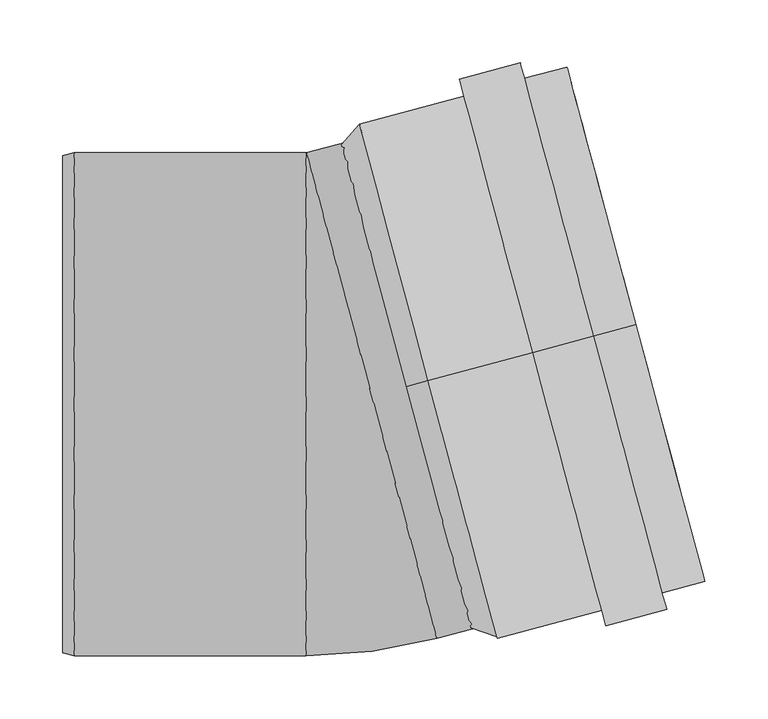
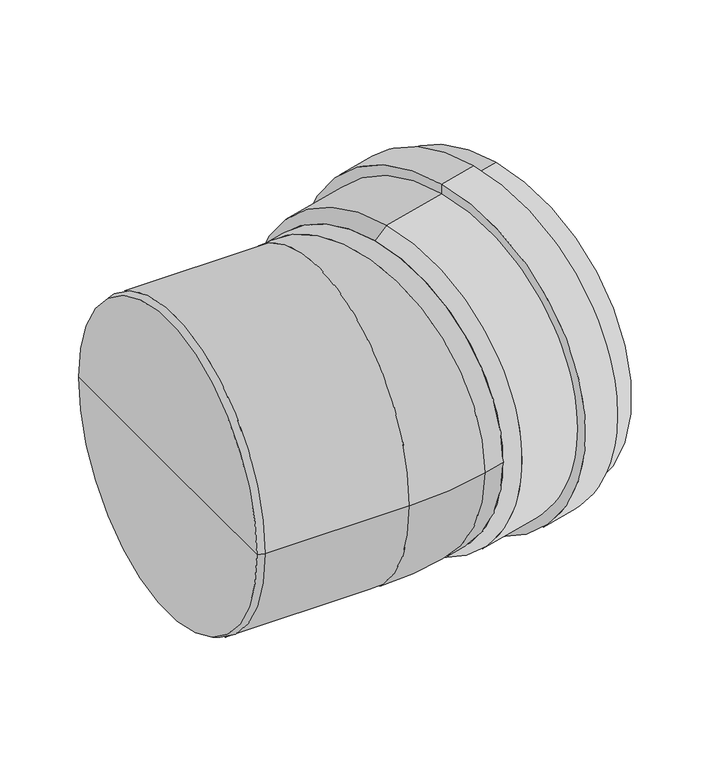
"""IFC4 building model written with IfcOpenShell, lengths in millimetres: pipe fitting geometry, OSMA_KG2000_PPKGB : Koleno 15°."""

from ifc_helpers import new_model, si_unit, point, frame, origin, place, context, project, spatial, polyline, circle_curve, ellipse_curve, trimmed, source, transform, mapped, element, save
from ifc_brep_helpers import plane_surface, cylinder_surface, revolved_surface, advanced_brep


def pipe_fitting_46361acc(model_context):
    return source(origin(), model_context, "Body", "AdvancedBrep", [
        advanced_brep(
        [(70.5125853, 18.8937903, 200.0), (70.5125853, 18.8937903, -200.0), (235.6859016, 63.151847, -200.0), (235.6859016, 63.151847, 200.0), (153.5822064, 41.1522282, 212.3), (153.5822064, 41.1522282, -212.3), (70.5125853, 18.8937903, -212.3), (70.5125853, 18.8937903, 212.3), (153.5822064, 41.1522282, 225.0), (153.5822064, 41.1522282, -225.0), (201.8784977, 54.0931804, 225.0), (201.8784977, 54.0931804, -225.0), (201.8784977, 54.0931804, 212.3), (201.8784977, 54.0931804, -212.3), (235.6859016, 63.151847, 212.3), (235.6859016, 63.151847, -212.3), (53.1259204, 14.2350475, 187.7), (53.1259204, 14.2350475, -187.7), (53.1259204, 14.2350475, 200.0), (53.1259204, 14.2350475, -200.0)],
        [
            (0, 1, circle_curve(frame((70.5125853, 18.8937903, 0.0), z_axis=(-0.9659258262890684, -0.2588190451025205, 0.0), x_axis=(0.0, 0.0, -1.0000000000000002)), 200.0)),
            (1, 2),
            (2, 3, circle_curve(frame((235.6859016, 63.151847, 0.0), z_axis=(0.9659258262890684, 0.2588190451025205, 0.0), x_axis=(0.0, 0.0, -1.0000000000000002)), 200.0)),
            (3, 0),
            (1, 0, circle_curve(frame((70.5125853, 18.8937903, 0.0), z_axis=(-0.9659258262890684, -0.2588190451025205, 0.0), x_axis=(0.0, 0.0, -1.0000000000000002)), 200.0)),
            (3, 2, circle_curve(frame((235.6859016, 63.151847, 0.0), z_axis=(0.9659258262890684, 0.2588190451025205, 0.0), x_axis=(0.0, 0.0, -1.0000000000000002)), 200.0)),
            (4, 5, circle_curve(frame((153.5822064, 41.1522282, 0.0), z_axis=(-0.9659258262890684, -0.2588190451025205, 0.0), x_axis=(0.0, 0.0, -1.0000000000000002)), 212.3)),
            (5, 6),
            (6, 7, circle_curve(frame((70.5125853, 18.8937903, 0.0), z_axis=(0.9659258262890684, 0.2588190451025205, 0.0), x_axis=(0.0, 0.0, -1.0000000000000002)), 212.3)),
            (7, 4),
            (5, 4, circle_curve(frame((153.5822064, 41.1522282, 0.0), z_axis=(-0.9659258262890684, -0.2588190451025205, 0.0), x_axis=(0.0, 0.0, -1.0000000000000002)), 212.3)),
            (7, 6, circle_curve(frame((70.5125853, 18.8937903, 0.0), z_axis=(0.9659258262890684, 0.2588190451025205, 0.0), x_axis=(0.0, 0.0, -1.0000000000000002)), 212.3)),
            (8, 9, circle_curve(frame((153.5822064, 41.1522282, 0.0), z_axis=(-0.9659258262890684, -0.2588190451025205, 0.0), x_axis=(0.0, 0.0, -1.0000000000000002)), 225.0)),
            (9, 5),
            (4, 8),
            (9, 8, circle_curve(frame((153.5822064, 41.1522282, 0.0), z_axis=(-0.9659258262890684, -0.2588190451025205, 0.0), x_axis=(0.0, 0.0, -1.0000000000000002)), 225.0)),
            (10, 11, circle_curve(frame((201.8784977, 54.0931804, 0.0), z_axis=(-0.9659258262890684, -0.2588190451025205, 0.0), x_axis=(0.0, 0.0, -1.0000000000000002)), 225.0)),
            (11, 9),
            (8, 10),
            (11, 10, circle_curve(frame((201.8784977, 54.0931804, 0.0), z_axis=(-0.9659258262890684, -0.2588190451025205, 0.0), x_axis=(0.0, 0.0, -1.0000000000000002)), 225.0)),
            (12, 13, circle_curve(frame((201.8784977, 54.0931804, 0.0), z_axis=(-0.9659258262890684, -0.2588190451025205, 0.0), x_axis=(0.0, 0.0, -1.0000000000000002)), 212.3)),
            (13, 11),
            (10, 12),
            (13, 12, circle_curve(frame((201.8784977, 54.0931804, 0.0), z_axis=(-0.9659258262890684, -0.2588190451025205, 0.0), x_axis=(0.0, 0.0, -1.0000000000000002)), 212.3)),
            (14, 15, circle_curve(frame((235.6859016, 63.151847, 0.0), z_axis=(-0.9659258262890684, -0.2588190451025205, 0.0), x_axis=(0.0, 0.0, -1.0000000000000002)), 212.3)),
            (15, 13),
            (12, 14),
            (15, 14, circle_curve(frame((235.6859016, 63.151847, 0.0), z_axis=(-0.9659258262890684, -0.2588190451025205, 0.0), x_axis=(0.0, 0.0, -1.0000000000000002)), 212.3)),
            (2, 15),
            (14, 3),
            (16, 17, circle_curve(frame((53.1259204, 14.2350475, 0.0), z_axis=(-0.9659258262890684, -0.2588190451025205, 0.0), x_axis=(0.0, 0.0, -1.0000000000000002)), 187.7)),
            (17, 1),
            (0, 16),
            (17, 16, circle_curve(frame((53.1259204, 14.2350475, 0.0), z_axis=(-0.9659258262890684, -0.2588190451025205, 0.0), x_axis=(0.0, 0.0, -1.0000000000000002)), 187.7)),
            (18, 19, circle_curve(frame((53.1259204, 14.2350475, 0.0), z_axis=(-0.9659258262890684, -0.2588190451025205, 0.0), x_axis=(0.0, 0.0, -1.0000000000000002)), 200.0)),
            (19, 17),
            (16, 18),
            (19, 18, circle_curve(frame((53.1259204, 14.2350475, 0.0), z_axis=(-0.9659258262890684, -0.2588190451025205, 0.0), x_axis=(0.0, 0.0, -1.0000000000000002)), 200.0)),
            (6, 19),
            (18, 7),
        ],
        [
            revolved_surface(polyline([(235.6859015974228, 63.15184700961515, -200.00000000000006), (70.51258530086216, 18.89379029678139, -200.00000000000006)]), (2814.1999931, 754.0626155, 0.0), (0.9659258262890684, 0.2588190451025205, 0.0)),
            cylinder_surface(frame((2814.1999931, 754.0626155, 0.0), z_axis=(0.9659258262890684, 0.2588190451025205, 0.0), x_axis=(0.0, 0.0, -1.0000000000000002)), 212.3),
            plane_surface(frame((153.5822064, 41.1522282, 0.0), z_axis=(-0.9659258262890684, -0.2588190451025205, 0.0), x_axis=(0.0, 0.0, -1.0))),
            cylinder_surface(frame((2814.1999931, 754.0626155, 0.0), z_axis=(0.9659258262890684, 0.2588190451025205, 0.0), x_axis=(0.0, 0.0, -1.0000000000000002)), 225.0),
            plane_surface(frame((201.8784977, 54.0931804, 0.0), z_axis=(0.9659258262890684, 0.2588190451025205, 0.0), x_axis=(0.0, 0.0, -1.0))),
            plane_surface(frame((235.6859016, 63.151847, 0.0), z_axis=(0.9659258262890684, 0.2588190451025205, 0.0), x_axis=(0.0, 0.0, -1.0))),
            revolved_surface(polyline([(70.5125853, 18.8937903, -200.0), (53.1259204, 14.2350475, -187.7)]), (2814.1999931, 754.0626155, 0.0), (0.9659258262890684, 0.2588190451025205, 0.0)),
            plane_surface(frame((53.1259204, 14.2350475, 0.0), z_axis=(-0.9659258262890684, -0.2588190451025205, 0.0), x_axis=(0.0, 0.0, -1.0))),
            revolved_surface(polyline([(53.1259204, 14.2350475, -200.0), (70.5125853, 18.8937903, -212.3)]), (2814.1999931, 754.0626155, 0.0), (0.9659258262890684, 0.2588190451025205, 0.0)),
        ],
        [
            (0, [[1, 2, 3, 4]]),
            (0, [[5, -4, 6, -2]]),
            (1, [[7, 8, 9, 10]]),
            (1, [[11, -10, 12, -8]]),
            (2, [[13, 14, -7, 15]]),
            (2, [[16, -15, -11, -14]]),
            (3, [[17, 18, -13, 19]]),
            (3, [[20, -19, -16, -18]]),
            (4, [[21, 22, -17, 23]]),
            (4, [[24, -23, -20, -22]]),
            (1, [[25, 26, -21, 27]]),
            (1, [[28, -27, -24, -26]]),
            (5, [[-3, 29, -25, 30]]),
            (5, [[-6, -30, -28, -29]]),
            (6, [[31, 32, -1, 33]]),
            (6, [[34, -33, -5, -32]]),
            (7, [[35, 36, -31, 37]]),
            (7, [[38, -37, -34, -36]]),
            (8, [[-9, 39, -35, 40]]),
            (8, [[-12, -40, -38, -39]]),
        ],
    ),
        advanced_brep(
        [(-220.0, 0.0, 0.0), (-220.0, 197.5884572, 0.0), (-220.0, -197.5884572, 0.0), (-211.0, 200.0, 0.0), (-211.0, -200.0, 0.0), (-26.1397497, 200.0511113, 0.0), (-26.5279783, 200.0, 0.0), (-26.5279783, -200.0, 0.0), (77.3878683, -186.3192193, 0.0), (25.6240593, 6.865946, 200.0), (25.6240593, 6.865946, -200.0), (116.4808394, -175.8442892, 0.0), (12.9532213, 210.5260413, 0.0)],
        [
            (0, 1),
            (1, 2, circle_curve(frame((-220.0, 0.0, 0.0), z_axis=(-1.0, 0.0, 0.0), x_axis=(0.0, 1.0, 0.0)), 197.5884572)),
            (2, 0),
            (2, 1, circle_curve(frame((-220.0, 0.0, 0.0), z_axis=(-1.0, 0.0, 0.0), x_axis=(0.0, 1.0, 0.0)), 197.5884572)),
            (1, 3),
            (3, 4, circle_curve(frame((-211.0, 0.0, 0.0), z_axis=(-1.0, 0.0, 0.0), x_axis=(0.0, 1.0, 0.0)), 200.0)),
            (4, 2),
            (4, 3, circle_curve(frame((-211.0, 0.0, 0.0), z_axis=(-1.0, 0.0, 0.0), x_axis=(0.0, 1.0, 0.0)), 200.0)),
            (5, 6, circle_curve(frame((-26.5279783, 201.5, 0.0), z_axis=(0.0, 0.0, -1.0), x_axis=(0.0, -1.0, 0.0)), 1.5)),
            (6, 7, circle_curve(frame((-26.5279783, 0.0, 0.0), z_axis=(1.0, 0.0, 0.0), x_axis=(0.0, 1.0, 0.0)), 200.0)),
            (7, 8, circle_curve(frame((-26.5279783, 201.5, 0.0), z_axis=(0.0, 0.0, 1.0), x_axis=(0.0, -1.0, 0.0)), 401.5)),
            (8, 9, circle_curve(frame((25.6240593, 6.865946, 0.0), z_axis=(-0.9659258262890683, -0.2588190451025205, 0.0), x_axis=(-0.2588190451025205, 0.9659258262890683, 0.0)), 200.0)),
            (9, 5, circle_curve(frame((25.6240593, 6.865946, 0.0), z_axis=(-0.9659258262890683, -0.2588190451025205, 0.0), x_axis=(-0.2588190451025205, 0.9659258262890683, 0.0)), 200.0)),
            (5, 10, circle_curve(frame((25.6240593, 6.865946, 0.0), z_axis=(-0.9659258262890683, -0.2588190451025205, 0.0), x_axis=(-0.2588190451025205, 0.9659258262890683, 0.0)), 200.0)),
            (10, 8, circle_curve(frame((25.6240593, 6.865946, 0.0), z_axis=(-0.9659258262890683, -0.2588190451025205, 0.0), x_axis=(-0.2588190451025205, 0.9659258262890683, 0.0)), 200.0)),
            (7, 6, circle_curve(frame((-26.5279783, 0.0, 0.0), z_axis=(1.0, 0.0, 0.0), x_axis=(0.0, 1.0, 0.0)), 200.0)),
            (3, 6),
            (7, 4),
            (11, 12, circle_curve(frame((64.7170304, 17.340876, 0.0), z_axis=(0.9659258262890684, 0.2588190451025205, 0.0), x_axis=(-0.2588190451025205, 0.9659258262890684, 0.0)), 200.0)),
            (12, 11, circle_curve(frame((64.7170304, 17.340876, 0.0), z_axis=(0.9659258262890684, 0.2588190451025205, 0.0), x_axis=(-0.2588190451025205, 0.9659258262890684, 0.0)), 200.0)),
            (12, 5),
            (8, 11),
        ],
        [
            plane_surface(frame((-220.0, 0.0, 0.0), z_axis=(-1.0, 0.0, 0.0), x_axis=(0.0, 1.0, 0.0))),
            revolved_surface(polyline([(-211.0, 200.0, 0.0), (-220.0, 197.5884572, 0.0)]), (331.0587718, 0.0, 0.0), (-1.0, 0.0, 0.0)),
            revolved_surface(trimmed(ellipse_curve(frame((-26.5279783, 0.0, 0.0), z_axis=(-1.0, 0.0, 0.0), x_axis=(0.0, 1.0, 0.0)), 200.0, 200.0), [point((-26.5279783, -200.0, 0.0))], [point((-26.5279783, 200.0, 0.0))], True, "CARTESIAN"), (-26.5279783, 201.5, 0.0), (0.0, 0.0, 1.0)),
            revolved_surface(trimmed(ellipse_curve(frame((-26.5279783, 0.0, 0.0), z_axis=(-1.0, 0.0, 0.0), x_axis=(0.0, 1.0, 0.0)), 200.0, 200.0), [point((-26.5279783, 200.0, 0.0))], [point((-26.5279783, -200.0, 0.0))], True, "CARTESIAN"), (-26.5279783, 201.5, 0.0), (0.0, 0.0, 1.0)),
            cylinder_surface(frame((331.0587718, 0.0, 0.0), z_axis=(-1.0, 0.0, 0.0), x_axis=(0.0, 1.0, 0.0)), 200.0),
            plane_surface(frame((64.7170304, 17.340876, 0.0), z_axis=(0.9659258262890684, 0.2588190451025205, 0.0), x_axis=(0.0, 0.0, 1.0))),
            cylinder_surface(frame((25.6240593, 6.865946, 0.0), z_axis=(-0.9659258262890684, -0.2588190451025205, 0.0), x_axis=(-0.2588190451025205, 0.9659258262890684, 0.0)), 200.0),
        ],
        [
            (0, [[1, 2, 3]]),
            (0, [[-1, -3, 4]]),
            (1, [[-2, 5, 6, 7]]),
            (1, [[-4, -7, 8, -5]]),
            (2, [[9, 10, 11, 12, 13]]),
            (3, [[-9, 14, 15, -11, 16]]),
            (4, [[-6, 17, -16, 18]]),
            (4, [[-8, -18, -10, -17]]),
            (5, [[19, 20]]),
            (6, [[-20, 21, -13, -12, 22]]),
            (6, [[-19, -22, -15, -14, -21]]),
        ],
    ),
    ])


if __name__ == "__main__":
    model = new_model("IFC4")
    model_context = context("Model", 3, world=origin())
    ifc_project = project(units=[si_unit("LENGTHUNIT", "METRE", prefix="MILLI")], contexts=[model_context])
    site = spatial("IfcSite", under=ifc_project)
    building = spatial("IfcBuilding", under=site)
    placement = place(None, origin())
    pipe_fitting_shape = pipe_fitting_46361acc(model_context)
    element("IfcPipeFitting", 1, ObjectType="OSMA_KG2000_PPKGB : Koleno 15°", at=placement, inside=building, context=model_context, shape_type="MappedRepresentation", body=[
        mapped(pipe_fitting_shape, transform((0.0, 0.0, 0.0), x_axis=(1.0, 0.0, 0.0), y_axis=(0.0, 1.0, 0.0), z_axis=(0.0, 0.0, 1.0))),
    ])
    save(model, "model.ifc")
